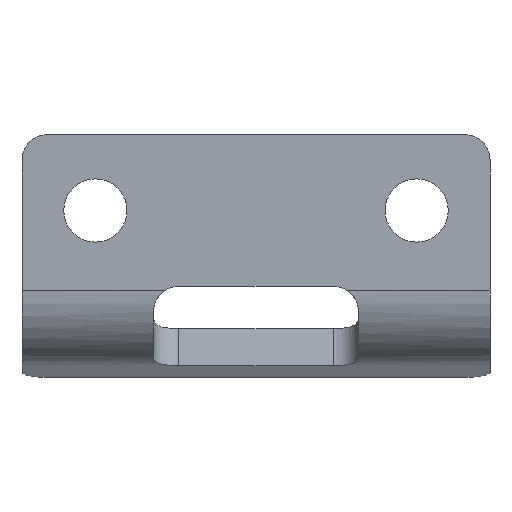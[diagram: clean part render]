
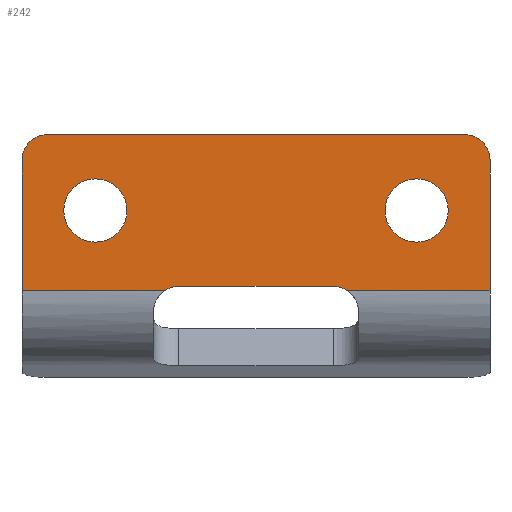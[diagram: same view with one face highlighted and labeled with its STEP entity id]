
A CAD part, front view. The second image highlights one B-rep face of the part: STEP entity #242.
In plain terms, the highlighted planar face has unit normal (0, -1, 0).
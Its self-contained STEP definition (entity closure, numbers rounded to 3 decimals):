
#1 = EDGE_CURVE ( 'NONE', #2, #3, #429, .T. ) ;
#2 = VERTEX_POINT ( 'NONE', #361 ) ;
#3 = VERTEX_POINT ( 'NONE', #360 ) ;
#4 = ORIENTED_EDGE ( 'NONE', *, *, #1, .F. ) ;
#5 = ORIENTED_EDGE ( 'NONE', *, *, #6, .T. ) ;
#6 = EDGE_CURVE ( 'NONE', #2, #25, #358, .T. ) ;
#7 = EDGE_CURVE ( 'NONE', #3, #10, #359, .T. ) ;
#8 = ORIENTED_EDGE ( 'NONE', *, *, #7, .F. ) ;
#10 = VERTEX_POINT ( 'NONE', #350 ) ;
#11 = ORIENTED_EDGE ( 'NONE', *, *, #12, .T. ) ;
#12 = EDGE_CURVE ( 'NONE', #15, #10, #348, .T. ) ;
#13 = EDGE_CURVE ( 'NONE', #19, #20, #457, .T. ) ;
#14 = ORIENTED_EDGE ( 'NONE', *, *, #16, .T. ) ;
#15 = VERTEX_POINT ( 'NONE', #453 ) ;
#16 = EDGE_CURVE ( 'NONE', #20, #15, #452, .T. ) ;
#17 = VERTEX_POINT ( 'NONE', #448 ) ;
#18 = ORIENTED_EDGE ( 'NONE', *, *, #13, .T. ) ;
#19 = VERTEX_POINT ( 'NONE', #447 ) ;
#20 = VERTEX_POINT ( 'NONE', #446 ) ;
#21 = ORIENTED_EDGE ( 'NONE', *, *, #22, .T. ) ;
#22 = EDGE_CURVE ( 'NONE', #17, #19, #563, .T. ) ;
#23 = EDGE_LOOP ( 'NONE', ( #21, #18, #14, #11, #8, #4, #5, #40, #61, #135 ) ) ;
#24 = ORIENTED_EDGE ( 'NONE', *, *, #105, .F. ) ;
#25 = VERTEX_POINT ( 'NONE', #559 ) ;
#26 = ORIENTED_EDGE ( 'NONE', *, *, #27, .F. ) ;
#27 = EDGE_CURVE ( 'NONE', #106, #103, #557, .T. ) ;
#38 = EDGE_CURVE ( 'NONE', #25, #39, #538, .T. ) ;
#39 = VERTEX_POINT ( 'NONE', #465 ) ;
#40 = ORIENTED_EDGE ( 'NONE', *, *, #38, .T. ) ;
#61 = ORIENTED_EDGE ( 'NONE', *, *, #62, .T. ) ;
#62 = EDGE_CURVE ( 'NONE', #39, #63, #521, .T. ) ;
#63 = VERTEX_POINT ( 'NONE', #516 ) ;
#103 = VERTEX_POINT ( 'NONE', #492 ) ;
#105 = EDGE_CURVE ( 'NONE', #103, #106, #491, .T. ) ;
#106 = VERTEX_POINT ( 'NONE', #486 ) ;
#135 = ORIENTED_EDGE ( 'NONE', *, *, #136, .F. ) ;
#136 = EDGE_CURVE ( 'NONE', #17, #63, #637, .T. ) ;
#242 = ADVANCED_FACE ( 'NONE', ( #819, #818, #817 ), #815, .T. ) ;
#243 = EDGE_LOOP ( 'NONE', ( #244, #246 ) ) ;
#244 = ORIENTED_EDGE ( 'NONE', *, *, #245, .F. ) ;
#245 = EDGE_CURVE ( 'NONE', #265, #262, #816, .T. ) ;
#246 = ORIENTED_EDGE ( 'NONE', *, *, #264, .F. ) ;
#247 = EDGE_LOOP ( 'NONE', ( #26, #24 ) ) ;
#262 = VERTEX_POINT ( 'NONE', #968 ) ;
#264 = EDGE_CURVE ( 'NONE', #262, #265, #1058, .T. ) ;
#265 = VERTEX_POINT ( 'NONE', #1053 ) ;
#344 = DIRECTION ( 'NONE',  ( 0., 0., -1. ) ) ;
#345 = DIRECTION ( 'NONE',  ( 0., -1., 0. ) ) ;
#346 = CARTESIAN_POINT ( 'NONE',  ( -8.25, 0., 7.6 ) ) ;
#347 = AXIS2_PLACEMENT_3D ( 'NONE', #346, #345, #344 ) ;
#348 = CIRCLE ( 'NONE', #347, 1. ) ;
#349 = CARTESIAN_POINT ( 'NONE',  ( 8.25, 0., 7.6 ) ) ;
#350 = CARTESIAN_POINT ( 'NONE',  ( -9.25, 0., 7.6 ) ) ;
#351 = DIRECTION ( 'NONE',  ( 0., 0., 1. ) ) ;
#352 = VECTOR ( 'NONE', #351, 1000. ) ;
#353 = CARTESIAN_POINT ( 'NONE',  ( -9.25, 0., 0. ) ) ;
#354 = DIRECTION ( 'NONE',  ( 0., 0., -1. ) ) ;
#355 = DIRECTION ( 'NONE',  ( 0., 1., 0. ) ) ;
#356 = CARTESIAN_POINT ( 'NONE',  ( -3.05, 0., 1.6 ) ) ;
#357 = AXIS2_PLACEMENT_3D ( 'NONE', #356, #355, #354 ) ;
#358 = CIRCLE ( 'NONE', #357, 1. ) ;
#359 = LINE ( 'NONE', #353, #352 ) ;
#360 = CARTESIAN_POINT ( 'NONE',  ( -9.25, 0., 2.429 ) ) ;
#361 = CARTESIAN_POINT ( 'NONE',  ( -3.609, 0., 2.429 ) ) ;
#362 = DIRECTION ( 'NONE',  ( -1., 0., 0. ) ) ;
#363 = VECTOR ( 'NONE', #362, 1000. ) ;
#428 = CARTESIAN_POINT ( 'NONE',  ( 9.25, 0., 2.429 ) ) ;
#429 = LINE ( 'NONE', #428, #363 ) ;
#446 = CARTESIAN_POINT ( 'NONE',  ( 8.25, 0., 8.6 ) ) ;
#447 = CARTESIAN_POINT ( 'NONE',  ( 9.25, 0., 7.6 ) ) ;
#448 = CARTESIAN_POINT ( 'NONE',  ( 9.25, 0., 2.429 ) ) ;
#449 = DIRECTION ( 'NONE',  ( -1., 0., 0. ) ) ;
#450 = VECTOR ( 'NONE', #449, 1000. ) ;
#451 = CARTESIAN_POINT ( 'NONE',  ( 9.25, 0., 8.6 ) ) ;
#452 = LINE ( 'NONE', #451, #450 ) ;
#453 = CARTESIAN_POINT ( 'NONE',  ( -8.25, 0., 8.6 ) ) ;
#454 = DIRECTION ( 'NONE',  ( 0., 0., -1. ) ) ;
#455 = DIRECTION ( 'NONE',  ( 0., -1., 0. ) ) ;
#456 = AXIS2_PLACEMENT_3D ( 'NONE', #349, #455, #454 ) ;
#457 = CIRCLE ( 'NONE', #456, 1. ) ;
#465 = CARTESIAN_POINT ( 'NONE',  ( 3.05, 0., 2.6 ) ) ;
#466 = DIRECTION ( 'NONE',  ( 1., 0., 0. ) ) ;
#467 = VECTOR ( 'NONE', #466, 1000. ) ;
#468 = CARTESIAN_POINT ( 'NONE',  ( -4.05, 0., 2.6 ) ) ;
#486 = CARTESIAN_POINT ( 'NONE',  ( -6.35, 0., 4.35 ) ) ;
#487 = DIRECTION ( 'NONE',  ( 0., 0., -1. ) ) ;
#488 = DIRECTION ( 'NONE',  ( 0., -1., 0. ) ) ;
#489 = CARTESIAN_POINT ( 'NONE',  ( -6.35, 0., 5.6 ) ) ;
#490 = AXIS2_PLACEMENT_3D ( 'NONE', #489, #488, #487 ) ;
#491 = CIRCLE ( 'NONE', #490, 1.25 ) ;
#492 = CARTESIAN_POINT ( 'NONE',  ( -6.35, 0., 6.85 ) ) ;
#516 = CARTESIAN_POINT ( 'NONE',  ( 3.609, 0., 2.429 ) ) ;
#517 = DIRECTION ( 'NONE',  ( 0., 0., -1. ) ) ;
#518 = DIRECTION ( 'NONE',  ( 0., 1., 0. ) ) ;
#519 = CARTESIAN_POINT ( 'NONE',  ( 3.05, 0., 1.6 ) ) ;
#520 = AXIS2_PLACEMENT_3D ( 'NONE', #519, #518, #517 ) ;
#521 = CIRCLE ( 'NONE', #520, 1. ) ;
#538 = LINE ( 'NONE', #468, #467 ) ;
#553 = DIRECTION ( 'NONE',  ( 0., 0., -1. ) ) ;
#554 = DIRECTION ( 'NONE',  ( 0., -1., 0. ) ) ;
#555 = CARTESIAN_POINT ( 'NONE',  ( -6.35, 0., 5.6 ) ) ;
#556 = AXIS2_PLACEMENT_3D ( 'NONE', #555, #554, #553 ) ;
#557 = CIRCLE ( 'NONE', #556, 1.25 ) ;
#559 = CARTESIAN_POINT ( 'NONE',  ( -3.05, 0., 2.6 ) ) ;
#560 = DIRECTION ( 'NONE',  ( 0., 0., 1. ) ) ;
#561 = VECTOR ( 'NONE', #560, 1000. ) ;
#562 = CARTESIAN_POINT ( 'NONE',  ( 9.25, 0., 0. ) ) ;
#563 = LINE ( 'NONE', #562, #561 ) ;
#634 = DIRECTION ( 'NONE',  ( -1., 0., 0. ) ) ;
#635 = VECTOR ( 'NONE', #634, 1000. ) ;
#636 = CARTESIAN_POINT ( 'NONE',  ( 9.25, 0., 2.429 ) ) ;
#637 = LINE ( 'NONE', #636, #635 ) ;
#811 = DIRECTION ( 'NONE',  ( 0., 0., -1. ) ) ;
#812 = DIRECTION ( 'NONE',  ( 0., -1., 0. ) ) ;
#813 = CARTESIAN_POINT ( 'NONE',  ( 9.25, 0., 0. ) ) ;
#814 = AXIS2_PLACEMENT_3D ( 'NONE', #813, #812, #811 ) ;
#815 = PLANE ( 'NONE',  #814 ) ;
#816 = CIRCLE ( 'NONE', #999, 1.25 ) ;
#817 = FACE_OUTER_BOUND ( 'NONE', #23, .T. ) ;
#818 = FACE_BOUND ( 'NONE', #247, .T. ) ;
#819 = FACE_BOUND ( 'NONE', #243, .T. ) ;
#968 = CARTESIAN_POINT ( 'NONE',  ( 6.35, 0., 6.85 ) ) ;
#996 = DIRECTION ( 'NONE',  ( 0., 0., -1. ) ) ;
#997 = DIRECTION ( 'NONE',  ( 0., -1., 0. ) ) ;
#998 = CARTESIAN_POINT ( 'NONE',  ( 6.35, 0., 5.6 ) ) ;
#999 = AXIS2_PLACEMENT_3D ( 'NONE', #998, #997, #996 ) ;
#1053 = CARTESIAN_POINT ( 'NONE',  ( 6.35, 0., 4.35 ) ) ;
#1054 = DIRECTION ( 'NONE',  ( 0., 0., -1. ) ) ;
#1055 = DIRECTION ( 'NONE',  ( 0., -1., 0. ) ) ;
#1056 = CARTESIAN_POINT ( 'NONE',  ( 6.35, 0., 5.6 ) ) ;
#1057 = AXIS2_PLACEMENT_3D ( 'NONE', #1056, #1055, #1054 ) ;
#1058 = CIRCLE ( 'NONE', #1057, 1.25 ) ;
